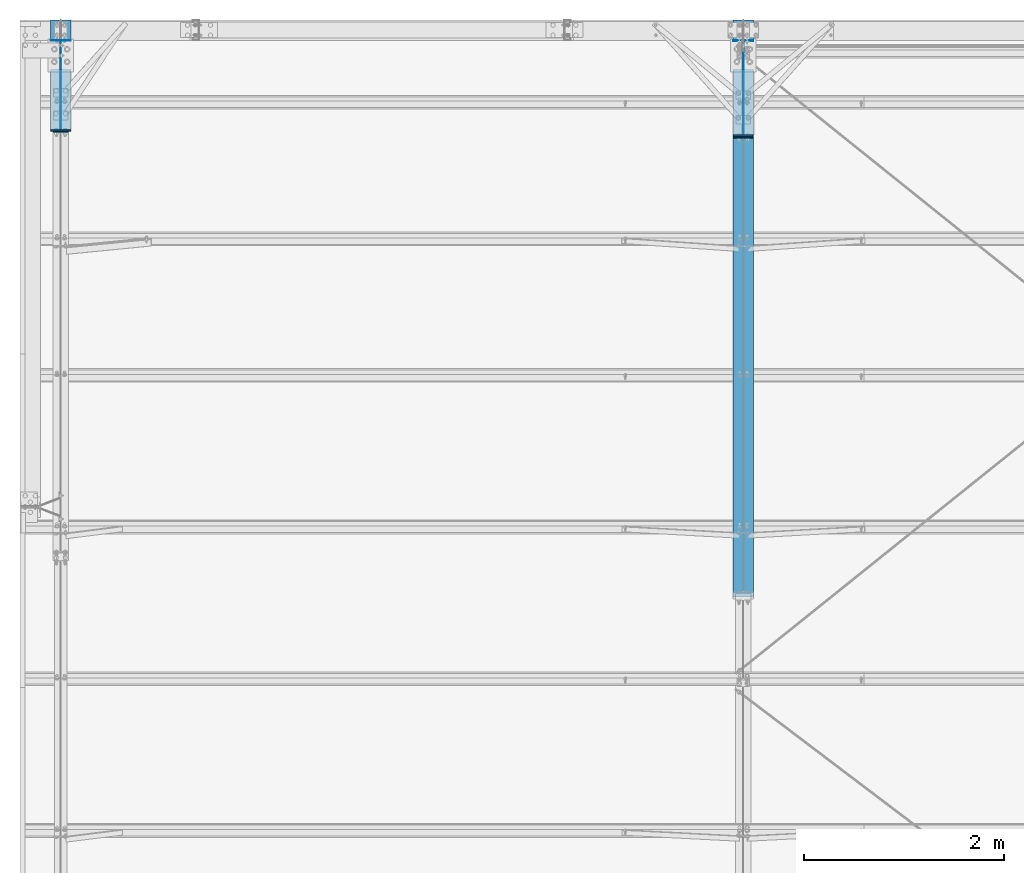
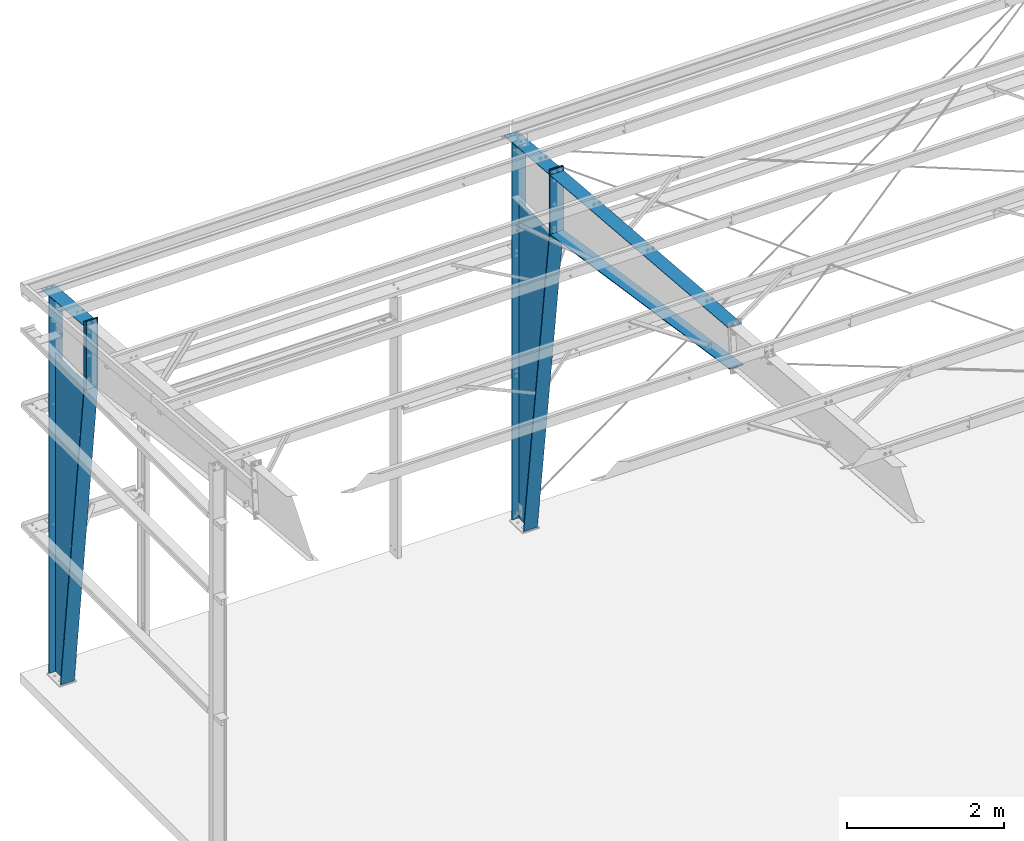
# One storey, part 55 of 185: 14 discrete accessories, 4 elements without a shape of their own.
"""IFC2X3 building model written with IfcOpenShell, lengths in millimetres."""

from ifc_helpers import new_model, si_unit, frame, origin_with_axes, origin_2d_with_axis, place, context, subcontext, project, spatial, rectangle, extrude, clip, halfspace, material, type_object, element, aggregate, save


model = new_model("IFC2X3")

# Units and contexts
model_context = context("Model", 3, precision=1e-05, world=origin_with_axes())
body_context = subcontext(model_context, "Body", "Model", "MODEL_VIEW")
ifc_project = project(units=[si_unit("LENGTHUNIT", "METRE", prefix="MILLI"), si_unit("AREAUNIT", "SQUARE_METRE"), si_unit("VOLUMEUNIT", "CUBIC_METRE"), si_unit("MASSUNIT", "GRAM", prefix="KILO"), si_unit("TIMEUNIT", "SECOND"), si_unit("PLANEANGLEUNIT", "RADIAN"), si_unit("SOLIDANGLEUNIT", "STERADIAN"), si_unit("THERMODYNAMICTEMPERATUREUNIT", "DEGREE_CELSIUS"), si_unit("LUMINOUSINTENSITYUNIT", "LUMEN")], contexts=[model_context])

# Site, building, storey
site_placement = place(None, origin_with_axes())
site = spatial("IfcSite", under=ifc_project, at=site_placement, Name="Undefined", CompositionType="ELEMENT")
building_placement = place(site_placement, origin_with_axes())
building = spatial("IfcBuilding", under=site, at=building_placement, Name="Undefined", CompositionType="ELEMENT")
storey_placement = place(building_placement, origin_with_axes())
storey = spatial("IfcBuildingStorey", under=building, at=storey_placement, Name="Undefined", CompositionType="ELEMENT", Elevation=0.0)

# Assembly, discrete accessory
assembly_1_placement = place(storey_placement, origin_with_axes())
assembly_1 = element("IfcElementAssembly", 1, at=assembly_1_placement, inside=storey, Name="Steel Assembly", AssemblyPlace="NOTDEFINED", PredefinedType="RIGID_FRAME")
ifc_material = material(Name="STEEL/55")
discrete_accessory_type_1 = type_object("IfcDiscreteAccessoryType", Name="Outside Flange")
discrete_accessory_1_placement = place(assembly_1_placement, frame((406.4, 31797.625, 15.8749999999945), z_axis=(0.0, 0.0, 1.0), x_axis=(1.0, 0.0, 0.0)))
discrete_accessory_1 = element("IfcDiscreteAccessory", 2, at=discrete_accessory_1_placement, type_object=discrete_accessory_type_1, material=ifc_material, Name="Outside Flange", ObjectType="FL1/4\"X8\"", context=body_context, shape_type="SweptSolid", body=[
    extrude(rectangle(XDim=6.35, YDim=203.2, at=origin_2d_with_axis()), frame((0.0, 0.0, 5886.78198800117), z_axis=(0.0, 0.0, -1.0), x_axis=(0.0, 1.0, 0.0)), (0.0, 0.0, 1.0), 5886.8),
])

assembly_2_placement = place(storey_placement, origin_with_axes())
assembly_2 = element("IfcElementAssembly", 3, at=assembly_2_placement, inside=storey, Name="Steel Assembly", AssemblyPlace="NOTDEFINED", PredefinedType="RIGID_FRAME")
discrete_accessory_2_placement = place(assembly_2_placement, frame((7239.0, 26278.234081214, 6365.21571746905), z_axis=(-1.0, 0.0, 0.0), x_axis=(0.0, 0.996545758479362, -0.0830454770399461)))
discrete_accessory_2 = element("IfcDiscreteAccessory", 4, at=discrete_accessory_2_placement, type_object=discrete_accessory_type_1, material=ifc_material, Name="Outside Flange", ObjectType="FL5/16\"X8\"", context=body_context, shape_type="SweptSolid", body=[
    extrude(rectangle(XDim=7.874, YDim=203.2, at=origin_2d_with_axis()), frame((4558.68878185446, 6.32645155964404e-14, 0.0), z_axis=(-1.0, 0.0, 0.0), x_axis=(0.0, -1.0, 0.0)), (0.0, 0.0, 1.0), 4558.7),
])

assembly_3_placement = place(storey_placement, origin_with_axes())
assembly_3 = element("IfcElementAssembly", 5, at=assembly_3_placement, inside=storey, Name="Steel Assembly", AssemblyPlace="NOTDEFINED", PredefinedType="RIGID_FRAME")
discrete_accessory_3_placement = place(assembly_3_placement, frame((7239.0, 31796.863, 15.8750000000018), z_axis=(0.0, 0.0, 1.0), x_axis=(1.0, 0.0, 0.0)))
discrete_accessory_3 = element("IfcDiscreteAccessory", 6, at=discrete_accessory_3_placement, type_object=discrete_accessory_type_1, material=ifc_material, Name="Outside Flange", ObjectType="FL5/16\"X8\"", context=body_context, shape_type="SweptSolid", body=[
    extrude(rectangle(XDim=7.874, YDim=203.2, at=origin_2d_with_axis()), frame((0.0, 0.0, 5885.17624136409), z_axis=(0.0, 0.0, -1.0), x_axis=(0.0, 1.0, 0.0)), (0.0, 0.0, 1.0), 5885.2),
])

# Discrete accessory
discrete_accessory_type_2 = type_object("IfcDiscreteAccessoryType", Name="Inside Flange")
discrete_accessory_4_placement = place(assembly_1_placement, frame((406.400000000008, 31502.2468795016, 16.6400266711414), z_axis=(1.0, 0.0, 0.0), x_axis=(0.0, -0.120476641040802, 0.992716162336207)))
discrete_accessory_4 = element("IfcDiscreteAccessory", 7, at=discrete_accessory_4_placement, type_object=discrete_accessory_type_2, material=ifc_material, Name="Inside Flange", ObjectType="FL1/2\"X8\"", context=body_context, shape_type="SweptSolid", body=[
    extrude(rectangle(XDim=12.7, YDim=203.2, at=origin_2d_with_axis()), frame((5005.72696797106, 0.0, 0.0), z_axis=(-1.0, 0.0, 0.0), x_axis=(0.0, -1.0, 0.0)), (0.0, 0.0, 1.0), 5005.7),
])

discrete_accessory_5_placement = place(assembly_2_placement, frame((7238.99999999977, 30820.5627257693, 5058.80982208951), z_axis=(1.0, 0.0, 0.0), x_axis=(0.0, -0.988976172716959, 0.148074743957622)))
discrete_accessory_5 = element("IfcDiscreteAccessory", 8, at=discrete_accessory_5_placement, type_object=discrete_accessory_type_2, material=ifc_material, Name="Inside Flange", ObjectType="FL1/2\"X8\"", context=body_context, shape_type="SweptSolid", body=[
    extrude(rectangle(XDim=12.7, YDim=203.2, at=origin_2d_with_axis()), frame((4644.66771051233, -1.28915425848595e-13, 0.0), z_axis=(-1.0, 0.0, 0.0), x_axis=(0.0, -1.0, 0.0)), (0.0, 0.0, 1.0), 4644.7),
])

discrete_accessory_6_placement = place(assembly_3_placement, frame((7239.00000000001, 31502.1855049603, 16.7056326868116), z_axis=(1.0, 0.0, 0.0), x_axis=(0.0, -0.130808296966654, 0.991407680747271)))
discrete_accessory_6 = element("IfcDiscreteAccessory", 9, at=discrete_accessory_6_placement, type_object=discrete_accessory_type_2, material=ifc_material, Name="Inside Flange", ObjectType="FL1/2\"X8\"", context=body_context, shape_type="SweptSolid", body=[
    extrude(rectangle(XDim=12.7, YDim=203.2, at=origin_2d_with_axis()), frame((5010.04109205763, -1.39056574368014e-13, 0.0), z_axis=(-1.0, 0.0, 0.0), x_axis=(0.0, -1.0, 0.0)), (0.0, 0.0, 1.0), 5010.0),
])

discrete_accessory_type_3 = type_object("IfcDiscreteAccessoryType", Name="Web")
discrete_accessory_7_placement = place(assembly_1_placement, frame((406.4, 31349.95, 15.8749999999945), z_axis=(0.0, 0.0, 1.0), x_axis=(0.0, 1.0, 0.0)))
discrete_accessory_7 = element("IfcDiscreteAccessory", 10, at=discrete_accessory_7_placement, type_object=discrete_accessory_type_3, material=ifc_material, Name="Web", ObjectType="PL3/16\"X35\"", context=body_context, shape_type="Clipping", body=[
    clip(extrude(rectangle(XDim=4.7625, YDim=889.0, at=origin_2d_with_axis()), frame((0.0, 0.0, 4970.20731443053), z_axis=(0.0, 0.0, -1.0), x_axis=(0.0, 1.0, 0.0)), (0.0, 0.0, 1.0), 4970.2), halfspace(frame((-444.5, -2.38125000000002, 4970.79278660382), z_axis=(-0.99271549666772, 0.0, -0.120482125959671), x_axis=(0.120482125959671, 0.0, -0.99271549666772)), False)),
])

discrete_accessory_8_placement = place(assembly_3_placement, frame((7239.0, 31323.026, 15.8750000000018), z_axis=(0.0, 0.0, 1.0), x_axis=(0.0, 1.0, 0.0)))
discrete_accessory_8 = element("IfcDiscreteAccessory", 11, at=discrete_accessory_8_placement, type_object=discrete_accessory_type_3, material=ifc_material, Name="Web", ObjectType="PL3/16\"X37\"", context=body_context, shape_type="Clipping", body=[
    clip(extrude(rectangle(XDim=4.7625, YDim=939.8, at=origin_2d_with_axis()), frame((0.0, 0.0, 4968.65448446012), z_axis=(0.0, 0.0, -1.0), x_axis=(0.0, 1.0, 0.0)), (0.0, 0.0, 1.0), 4968.7), halfspace(frame((-469.900000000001, -2.38124999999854, 4968.65448446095), z_axis=(-0.991407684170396, 0.0, -0.130808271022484), x_axis=(0.130808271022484, 0.0, -0.991407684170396)), False)),
])

# Assembly, discrete accessory
assembly_4_placement = place(storey_placement, origin_with_axes())
assembly_4 = element("IfcElementAssembly", 12, at=assembly_4_placement, inside=storey, Name="Steel Assembly", AssemblyPlace="NOTDEFINED", PredefinedType="RIGID_FRAME")
discrete_accessory_type_4 = type_object("IfcDiscreteAccessoryType", Name="Rafter Haunch Plate")
discrete_accessory_9_placement = place(assembly_4_placement, frame((406.399999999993, 30886.4, 6052.88231192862), z_axis=(-1.0, 0.0, 0.0), x_axis=(0.0, 0.0, -1.0)))
discrete_accessory_9 = element("IfcDiscreteAccessory", 13, at=discrete_accessory_9_placement, type_object=discrete_accessory_type_4, material=ifc_material, Name="Rafter Haunch Plate", ObjectType="FL1/2\"X6\"", context=body_context, shape_type="SweptSolid", body=[
    extrude(rectangle(XDim=12.7, YDim=152.4, at=origin_2d_with_axis()), frame((1066.80000250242, 0.0, 0.0), z_axis=(-1.0, 0.0, 0.0), x_axis=(0.0, -1.0, 0.0)), (0.0, 0.0, 1.0), 1066.8),
])
aggregate(assembly_4, [discrete_accessory_9])

# Discrete accessory
discrete_accessory_10_placement = place(assembly_2_placement, frame((7239.0, 30829.377, 6060.85448861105), z_axis=(-1.0, 0.0, 0.0), x_axis=(0.0, 0.0, -1.0)))
discrete_accessory_10 = element("IfcDiscreteAccessory", 14, at=discrete_accessory_10_placement, type_object=discrete_accessory_type_4, material=ifc_material, Name="Rafter Haunch Plate", ObjectType="PL5/8\"X8\"", context=body_context, shape_type="SweptSolid", body=[
    extrude(rectangle(XDim=15.748, YDim=203.2, at=origin_2d_with_axis()), frame((1076.32500219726, 0.0, 0.0), z_axis=(-1.0, 0.0, 0.0), x_axis=(0.0, -1.0, 0.0)), (0.0, 0.0, 1.0), 1076.3),
])

aggregate(assembly_2, [discrete_accessory_2, discrete_accessory_5, discrete_accessory_10])

discrete_accessory_type_5 = type_object("IfcDiscreteAccessoryType", Name="Column Connection Pla")
discrete_accessory_11_placement = place(assembly_1_placement, frame((406.4, 30899.1, 6052.88231443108), z_axis=(-1.0, 0.0, 0.0), x_axis=(0.0, 0.0, -1.0)))
discrete_accessory_11 = element("IfcDiscreteAccessory", 15, at=discrete_accessory_11_placement, type_object=discrete_accessory_type_5, material=ifc_material, Name="Column Connection Pla", ObjectType="FL1/2\"X8\"", context=body_context, shape_type="SweptSolid", body=[
    extrude(rectangle(XDim=12.7, YDim=203.2, at=origin_2d_with_axis()), frame((1066.80000250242, 0.0, 0.0), z_axis=(-1.0, 0.0, 0.0), x_axis=(0.0, -1.0, 0.0)), (0.0, 0.0, 1.0), 1066.8),
])

discrete_accessory_12_placement = place(assembly_3_placement, frame((7239.0, 30845.1885, 6060.85448555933), z_axis=(-1.0, 0.0, 0.0), x_axis=(0.0, 0.0, -1.0)))
discrete_accessory_12 = element("IfcDiscreteAccessory", 16, at=discrete_accessory_12_placement, type_object=discrete_accessory_type_5, material=ifc_material, Name="Column Connection Pla", ObjectType="FL5/8\"X8\"", context=body_context, shape_type="SweptSolid", body=[
    extrude(rectangle(XDim=15.875, YDim=203.2, at=origin_2d_with_axis()), frame((1076.32500219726, 0.0, 0.0), z_axis=(-1.0, 0.0, 0.0), x_axis=(0.0, -1.0, 0.0)), (0.0, 0.0, 1.0), 1076.3),
])

discrete_accessory_type_6 = type_object("IfcDiscreteAccessoryType", Name="Cap Plate")
discrete_accessory_13_placement = place(assembly_1_placement, frame((406.4, 32003.7363306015, 5888.93163235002), z_axis=(1.0, 0.0, 0.0), x_axis=(0.0, -0.996545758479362, 0.0830454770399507)))
discrete_accessory_13 = element("IfcDiscreteAccessory", 17, at=discrete_accessory_13_placement, type_object=discrete_accessory_type_6, material=ifc_material, Name="Cap Plate", ObjectType="FL1/4\"X8\"", context=body_context, shape_type="SweptSolid", body=[
    extrude(rectangle(XDim=6.35, YDim=203.2, at=origin_2d_with_axis()), frame((1101.82864370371, -1.52909441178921e-14, 0.0), z_axis=(-1.0, 0.0, 0.0), x_axis=(0.0, -1.0, 0.0)), (0.0, 0.0, 1.0), 1101.8),
])

aggregate(assembly_1, [discrete_accessory_11, discrete_accessory_13, discrete_accessory_1, discrete_accessory_4, discrete_accessory_7])

discrete_accessory_14_placement = place(assembly_3_placement, frame((7239.0, 32003.669885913, 5888.13429608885), z_axis=(1.0, 0.0, 0.0), x_axis=(0.0, -0.996545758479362, 0.0830454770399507)))
discrete_accessory_14 = element("IfcDiscreteAccessory", 18, at=discrete_accessory_14_placement, type_object=discrete_accessory_type_6, material=ifc_material, Name="Cap Plate", ObjectType="FL5/16\"X8\"", context=body_context, shape_type="SweptSolid", body=[
    extrude(rectangle(XDim=7.9502, YDim=203.2, at=origin_2d_with_axis()), frame((1154.20065993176, 0.0, 0.0), z_axis=(-1.0, 0.0, 0.0), x_axis=(0.0, -1.0, 0.0)), (0.0, 0.0, 1.0), 1154.2),
])

aggregate(assembly_3, [discrete_accessory_12, discrete_accessory_14, discrete_accessory_3, discrete_accessory_6, discrete_accessory_8])

save(model, "model.ifc")
